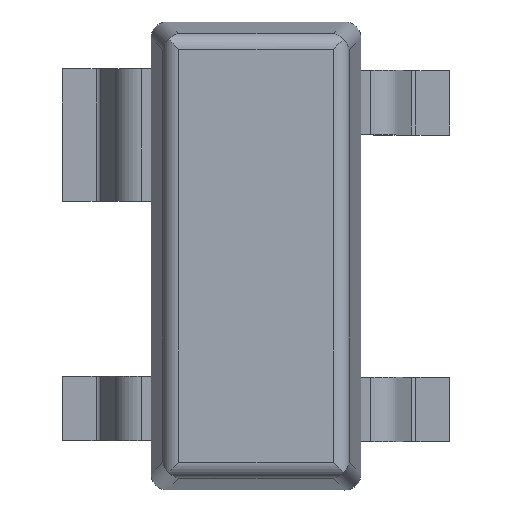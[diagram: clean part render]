
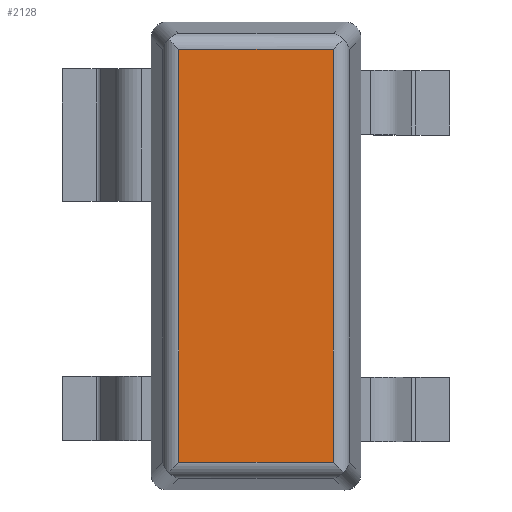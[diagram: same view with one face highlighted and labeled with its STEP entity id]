
A CAD part, top view. The second image highlights one B-rep face of the part: STEP entity #2128.
In plain terms, the highlighted planar face has unit normal (0, 0, 1).
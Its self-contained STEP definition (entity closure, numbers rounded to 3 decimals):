
#338 = ORIENTED_EDGE ( 'NONE', *, *, #504, .T. ) ;
#340 = DIRECTION ( 'NONE',  ( 1., 0., 0. ) ) ;
#425 = CARTESIAN_POINT ( 'NONE',  ( 32.66, 500.341, 0.6 ) ) ;
#426 = EDGE_LOOP ( 'NONE', ( #1640, #2275, #338, #1911 ) ) ;
#504 = EDGE_CURVE ( 'NONE', #1814, #909, #2495, .T. ) ;
#528 = DIRECTION ( 'NONE',  ( -1., 0., 0. ) ) ;
#554 = VECTOR ( 'NONE', #1067, 1000. ) ;
#693 = CARTESIAN_POINT ( 'NONE',  ( 32.66, 498.7, 0.6 ) ) ;
#722 = FACE_OUTER_BOUND ( 'NONE', #426, .T. ) ;
#784 = VERTEX_POINT ( 'NONE', #2376 ) ;
#901 = LINE ( 'NONE', #1709, #1501 ) ;
#909 = VERTEX_POINT ( 'NONE', #1580 ) ;
#1067 = DIRECTION ( 'NONE',  ( -1., 0., 0. ) ) ;
#1233 = DIRECTION ( 'NONE',  ( 0., -1., 0. ) ) ;
#1321 = VERTEX_POINT ( 'NONE', #1339 ) ;
#1336 = VECTOR ( 'NONE', #528, 1000. ) ;
#1339 = CARTESIAN_POINT ( 'NONE',  ( 32.66, 497.784, 0.6 ) ) ;
#1500 = DIRECTION ( 'NONE',  ( 0., 1., 0. ) ) ;
#1501 = VECTOR ( 'NONE', #1500, 1000. ) ;
#1567 = DIRECTION ( 'NONE',  ( 0., 0., 1. ) ) ;
#1580 = CARTESIAN_POINT ( 'NONE',  ( 31.702, 500.341, 0.6 ) ) ;
#1615 = CARTESIAN_POINT ( 'NONE',  ( 32.018, 497.784, 0.6 ) ) ;
#1640 = ORIENTED_EDGE ( 'NONE', *, *, #1957, .F. ) ;
#1674 = VECTOR ( 'NONE', #1233, 1000. ) ;
#1709 = CARTESIAN_POINT ( 'NONE',  ( 31.702, 499.425, 0.6 ) ) ;
#1814 = VERTEX_POINT ( 'NONE', #425 ) ;
#1828 = LINE ( 'NONE', #693, #1674 ) ;
#1911 = ORIENTED_EDGE ( 'NONE', *, *, #2135, .F. ) ;
#1941 = EDGE_CURVE ( 'NONE', #1814, #1321, #1828, .T. ) ;
#1957 = EDGE_CURVE ( 'NONE', #1321, #784, #2032, .T. ) ;
#2032 = LINE ( 'NONE', #1615, #554 ) ;
#2085 = PLANE ( 'NONE',  #2116 ) ;
#2096 = CARTESIAN_POINT ( 'NONE',  ( 32.181, 499.063, 0.6 ) ) ;
#2100 = CARTESIAN_POINT ( 'NONE',  ( 32.181, 500.341, 0.6 ) ) ;
#2116 = AXIS2_PLACEMENT_3D ( 'NONE', #2096, #1567, #340 ) ;
#2128 = ADVANCED_FACE ( 'NONE', ( #722 ), #2085, .T. ) ;
#2135 = EDGE_CURVE ( 'NONE', #784, #909, #901, .T. ) ;
#2275 = ORIENTED_EDGE ( 'NONE', *, *, #1941, .F. ) ;
#2376 = CARTESIAN_POINT ( 'NONE',  ( 31.702, 497.784, 0.6 ) ) ;
#2495 = LINE ( 'NONE', #2100, #1336 ) ;
